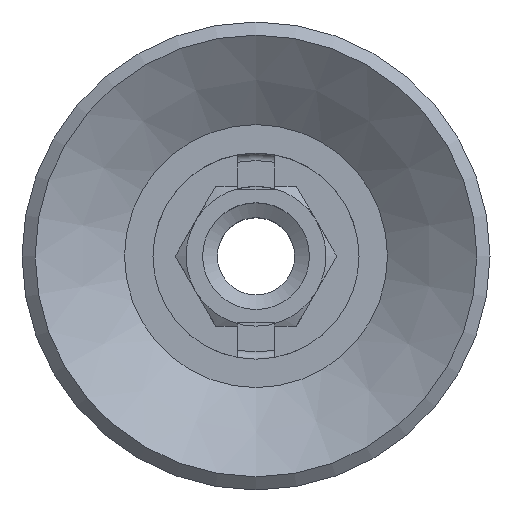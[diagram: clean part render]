
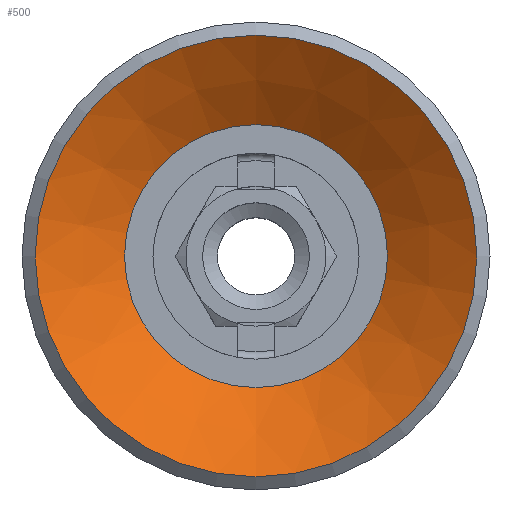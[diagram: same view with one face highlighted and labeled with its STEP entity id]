
A CAD part, top view. The second image highlights one B-rep face of the part: STEP entity #500.
In plain terms, the highlighted conical face has half-angle 55 degrees and reference radius 17.861 mm.
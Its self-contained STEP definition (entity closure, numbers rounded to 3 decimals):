
#500=ADVANCED_FACE('',(#963,#964),#965,.F.);
#526=EDGE_CURVE('',#1004,#1004,#1005,.T.);
#528=EDGE_CURVE('',#1007,#1007,#1008,.T.);
#963=FACE_BOUND('',#1404,.T.);
#964=FACE_OUTER_BOUND('',#1405,.T.);
#965=CONICAL_SURFACE('',#1406,17.861,0.96);
#1004=VERTEX_POINT('',#1457);
#1005=CIRCLE('',#1458,17.861);
#1007=VERTEX_POINT('',#1461);
#1008=CIRCLE('',#1462,30.0);
#1404=EDGE_LOOP('',(#2436));
#1405=EDGE_LOOP('',(#2437));
#1406=AXIS2_PLACEMENT_3D('',#2438,#2439,#2440);
#1457=CARTESIAN_POINT('',(0.0,8.5,-17.861));
#1458=AXIS2_PLACEMENT_3D('',#2480,#2481,#2482);
#1461=CARTESIAN_POINT('',(0.0,0.0,-30.0));
#1462=AXIS2_PLACEMENT_3D('',#2483,#2484,#2485);
#2436=ORIENTED_EDGE('',*,*,#526,.F.);
#2437=ORIENTED_EDGE('',*,*,#528,.T.);
#2438=CARTESIAN_POINT('',(0.0,8.5,0.0));
#2439=DIRECTION('',(0.0,-1.0,-0.0));
#2440=DIRECTION('',(0.0,0.0,-1.0));
#2480=CARTESIAN_POINT('',(0.0,8.5,0.0));
#2481=DIRECTION('',(0.0,-1.0,0.0));
#2482=DIRECTION('',(0.0,0.0,-1.0));
#2483=CARTESIAN_POINT('',(0.0,0.0,0.0));
#2484=DIRECTION('',(0.0,-1.0,0.0));
#2485=DIRECTION('',(0.0,0.0,-1.0));
